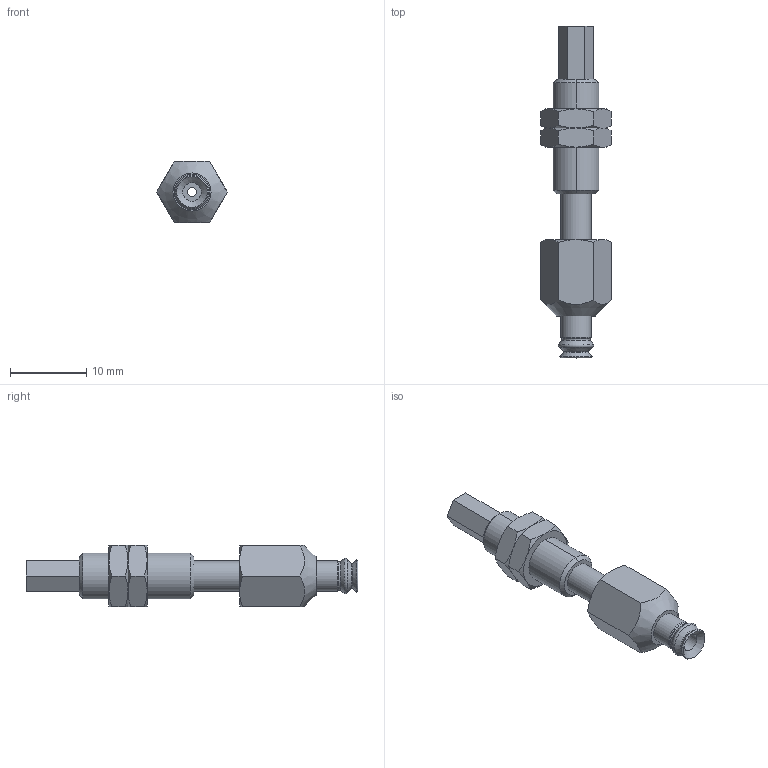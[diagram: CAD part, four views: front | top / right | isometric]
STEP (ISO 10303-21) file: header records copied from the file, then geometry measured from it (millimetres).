
FILE_DESCRIPTION(('STEP AP203'),'1');
FILE_NAME('.stp','2025-08-27T07:03:48',(' '),(' '),'Spatial InterOp 3D',' ',' ');
FILE_SCHEMA(('CONFIG_CONTROL_DESIGN'));
Length unit declared in the file: millimetre
Products named in the file (6): BNABPJTS-4-6-※; ADAPTER; NAPFTS-2A-6-MBODY; _Nut_1_5A_6_s; _NAPFTS_1_5A_6_FBODY; BPJG-4-※
Assembly tree (6 placements, depth 2):
  BNABPJTS-4-6-※
    ADAPTER
    NAPFTS-2A-6-MBODY
    _Nut_1_5A_6_s  x2
    _NAPFTS_1_5A_6_FBODY
    BPJG-4-※
Bounding box: 9.24 x 43.5 x 8 mm (x, y, z)
Volume: 1270.8 mm3; surface area: 1889.2 mm2
Topology: 6 solids, 6 shells, 123 faces, 265 edges, 157 vertices
Faces by surface type: cone 51, plane 45, cylinder 18, torus 9
Full cylindrical faces by diameter (mm): 1.2 x2, 2 x2, 2.4 x1, 2.459 x1, 3 x2, 4 x2
Entity records: 2732 total; most frequent: CARTESIAN_POINT 510, DIRECTION 416, ORIENTED_EDGE 342, AXIS2_PLACEMENT_3D 183, EDGE_CURVE 171, EDGE_LOOP 138, FACE_OUTER_BOUND 116, VERTEX_POINT 115
